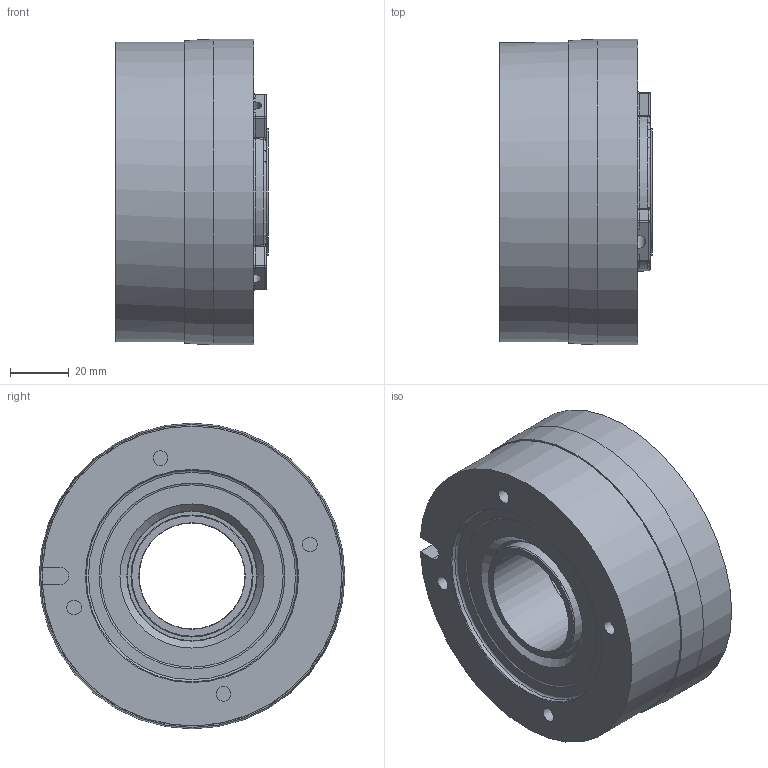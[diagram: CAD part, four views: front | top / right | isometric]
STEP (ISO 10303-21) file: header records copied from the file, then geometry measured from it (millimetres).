
FILE_DESCRIPTION (( 'STEP AP214' ), '1' );
FILE_NAME ('86 61110Pxx_PF-ID 118501_Index c.STEP', '2020-02-06T09:12:31', ( '' ), ( '' ), 'SwSTEP 2.0', 'SolidWorks 2018', '' );
FILE_SCHEMA (( 'AUTOMOTIVE_DESIGN' ));
Length unit declared in the file: millimetre
Products named in the file (1): 86 61110Pxx_PF-ID 118501_Index c
Bounding box: 52.02 x 104 x 104 mm (x, y, z)
Volume: 313956.8 mm3; surface area: 69313.6 mm2
Topology: 2 solids, 2 shells, 150 faces, 322 edges, 183 vertices
Faces by surface type: cylinder 54, plane 36, bspline 18, torus 17, cone 13, sphere 12
Full cylindrical faces by diameter (mm): 5 x7, 36 x1, 36.2 x1, 41.5 x1, 41.54 x1, 43 x1, 44 x2, 49 x1, 72 x1, 78.3 x1, 85 x1, 99 x1, 100 x1, 101.6 x1, 102 x1, 104 x1
Entity records: 4674 total; most frequent: CARTESIAN_POINT 1581, DIRECTION 636, ORIENTED_EDGE 546, AXIS2_PLACEMENT_3D 284, EDGE_CURVE 273, EDGE_LOOP 212, VERTEX_POINT 179, FACE_OUTER_BOUND 178
